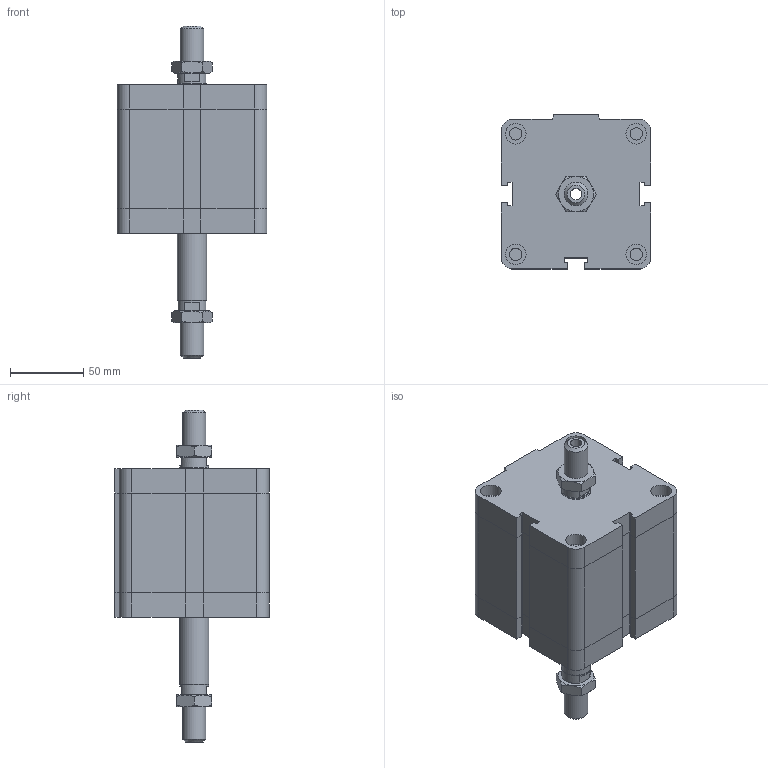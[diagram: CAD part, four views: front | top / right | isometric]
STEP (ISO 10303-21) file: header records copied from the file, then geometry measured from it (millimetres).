
FILE_DESCRIPTION((''),'2;1');
FILE_NAME('I:\Area Tecnica\Disegni\VARIE-3D\Componenti\EUROPE\15##_###_####_05_#\1581_80_0045_05_1.iam.stp','2009-04-20T15:03:02',(''),(''),'Autodesk Inventor 2009','Autodesk Inventor 2009','');
FILE_SCHEMA(('AUTOMOTIVE_DESIGN { 1 0 10303 214 1 1 1 1 }'));
Length unit declared in the file: millimetre
Products named in the file (4): 1581_80_0045_05_1; 1581_80_0045_03_1_C; 1561_80_0045_05_1_S; DBFM16
Assembly tree (4 placements, depth 2):
  1581_80_0045_05_1
    1581_80_0045_03_1_C
    1561_80_0045_05_1_S
    DBFM16  x2
Bounding box: 102 x 105 x 226 mm (x, y, z)
Volume: 1030163.2 mm3; surface area: 102543.6 mm2
Topology: 4 solids, 4 shells, 223 faces, 486 edges, 291 vertices
Faces by surface type: plane 129, cone 37, bspline 32, cylinder 25
Full cylindrical faces by diameter (mm): 8.376 x4, 14 x4, 14.5 x1, 16 x1, 19.5 x2, 20 x1
Entity records: 5484 total; most frequent: CARTESIAN_POINT 1227, DIRECTION 808, ORIENTED_EDGE 776, EDGE_CURVE 388, AXIS2_PLACEMENT_3D 275, EDGE_LOOP 262, VECTOR 258, LINE 258
